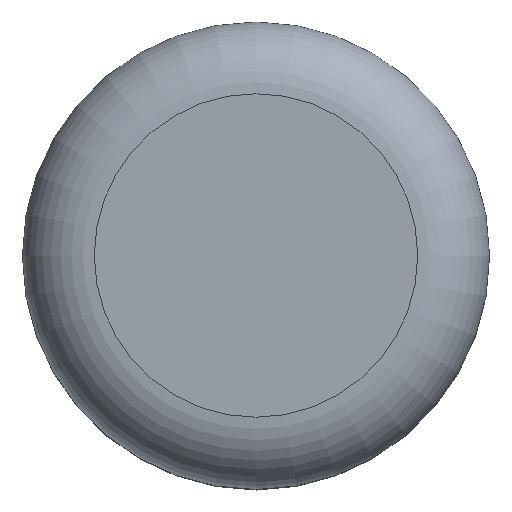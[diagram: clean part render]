
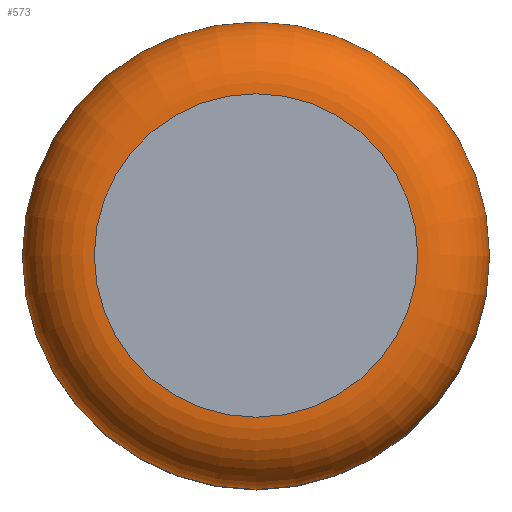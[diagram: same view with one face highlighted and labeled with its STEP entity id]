
A CAD part, top view. The second image highlights one B-rep face of the part: STEP entity #573.
In plain terms, the highlighted toroidal (fillet/blend) face has major radius 18 mm and minor radius 8 mm.
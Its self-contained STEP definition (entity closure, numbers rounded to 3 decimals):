
#573=ADVANCED_FACE('',(#969,#971),#973,.T.);
#969=FACE_OUTER_BOUND('',#970,.T.);
#970=EDGE_LOOP('',(#1102));
#971=FACE_OUTER_BOUND('',#972,.T.);
#972=EDGE_LOOP('',(#1103));
#973=TOROIDAL_SURFACE('',#974,18.,8.);
#974=AXIS2_PLACEMENT_3D('',#975,#976,#977);
#975=CARTESIAN_POINT('',(0.,0.,27.));
#976=DIRECTION('',(0.,0.,-1.));
#977=DIRECTION('',(-1.,0.,0.));
#1102=ORIENTED_EDGE('',*,*,#1164,.T.);
#1103=ORIENTED_EDGE('',*,*,#1163,.F.);
#1163=EDGE_CURVE('',#1273,#1273,#1274,.T.);
#1164=EDGE_CURVE('',#1275,#1275,#1276,.T.);
#1273=VERTEX_POINT('',#1547);
#1274=CIRCLE('',#1548,26.);
#1275=VERTEX_POINT('',#1552);
#1276=CIRCLE('',#1553,18.);
#1547=CARTESIAN_POINT('',(-26.,0.,27.));
#1548=AXIS2_PLACEMENT_3D('',#1549,#1550,#1551);
#1549=CARTESIAN_POINT('',(0.,0.,27.));
#1550=DIRECTION('',(0.,0.,-1.));
#1551=DIRECTION('',(-1.,0.,0.));
#1552=CARTESIAN_POINT('',(-18.,0.,35.));
#1553=AXIS2_PLACEMENT_3D('',#1554,#1555,#1556);
#1554=CARTESIAN_POINT('',(0.,0.,35.));
#1555=DIRECTION('',(0.,0.,-1.));
#1556=DIRECTION('',(-1.,0.,0.));
